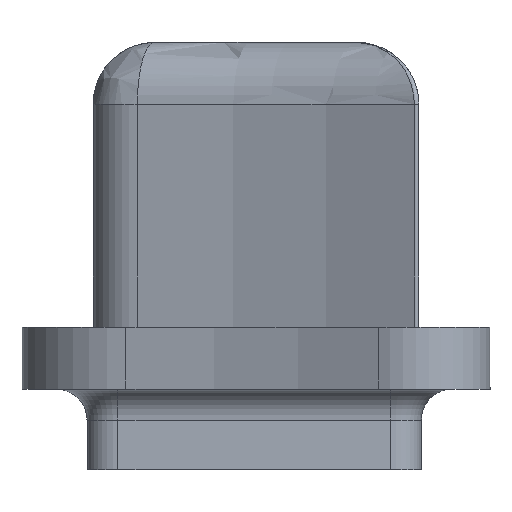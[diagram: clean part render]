
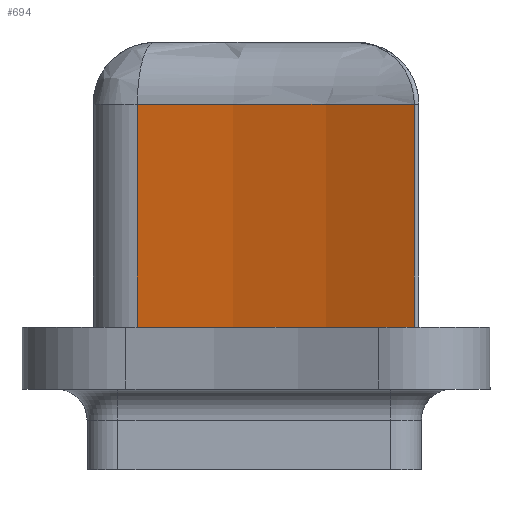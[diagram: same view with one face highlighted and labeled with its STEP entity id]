
A CAD part, left-side view. The second image highlights one B-rep face of the part: STEP entity #694.
In plain terms, the highlighted cylindrical face has radius 13.15 mm (diameter 26.3 mm), a partial arc.
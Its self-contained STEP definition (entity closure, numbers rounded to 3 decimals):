
#78=LINE('',#1410,#124);
#82=LINE('',#1423,#128);
#124=VECTOR('',#978,10.);
#128=VECTOR('',#994,10.);
#150=CYLINDRICAL_SURFACE('',#789,13.15);
#192=FACE_OUTER_BOUND('',#237,.T.);
#237=EDGE_LOOP('',(#611,#612,#613,#614));
#278=CIRCLE('',#772,13.15);
#286=CIRCLE('',#790,13.15);
#335=VERTEX_POINT('',#1295);
#337=VERTEX_POINT('',#1358);
#344=VERTEX_POINT('',#1409);
#347=VERTEX_POINT('',#1422);
#422=EDGE_CURVE('',#335,#337,#278,.T.);
#435=EDGE_CURVE('',#344,#337,#78,.T.);
#441=EDGE_CURVE('',#347,#335,#82,.T.);
#442=EDGE_CURVE('',#344,#347,#286,.T.);
#611=ORIENTED_EDGE('',*,*,#422,.F.);
#612=ORIENTED_EDGE('',*,*,#441,.F.);
#613=ORIENTED_EDGE('',*,*,#442,.F.);
#614=ORIENTED_EDGE('',*,*,#435,.T.);
#694=ADVANCED_FACE('',(#192),#150,.F.);
#772=AXIS2_PLACEMENT_3D('',#1386,#947,#948);
#789=AXIS2_PLACEMENT_3D('',#1421,#992,#993);
#790=AXIS2_PLACEMENT_3D('',#1424,#995,#996);
#947=DIRECTION('center_axis',(0.,0.,-1.));
#948=DIRECTION('ref_axis',(0.942,-0.336,0.));
#978=DIRECTION('',(0.,0.,1.));
#992=DIRECTION('center_axis',(0.,0.,1.));
#993=DIRECTION('ref_axis',(0.987,-0.161,0.));
#994=DIRECTION('',(0.,0.,1.));
#995=DIRECTION('center_axis',(0.,0.,1.));
#996=DIRECTION('ref_axis',(0.987,-0.161,0.));
#1295=CARTESIAN_POINT('',(75.273,10.538,20.888));
#1358=CARTESIAN_POINT('',(73.678,6.068,20.888));
#1386=CARTESIAN_POINT('Origin',(62.294,12.651,20.888));
#1409=CARTESIAN_POINT('',(73.678,6.068,17.288));
#1410=CARTESIAN_POINT('',(73.678,6.068,17.288));
#1421=CARTESIAN_POINT('Origin',(62.294,12.651,17.288));
#1422=CARTESIAN_POINT('',(75.273,10.538,17.288));
#1423=CARTESIAN_POINT('',(75.273,10.538,17.288));
#1424=CARTESIAN_POINT('Origin',(62.294,12.651,17.288));
